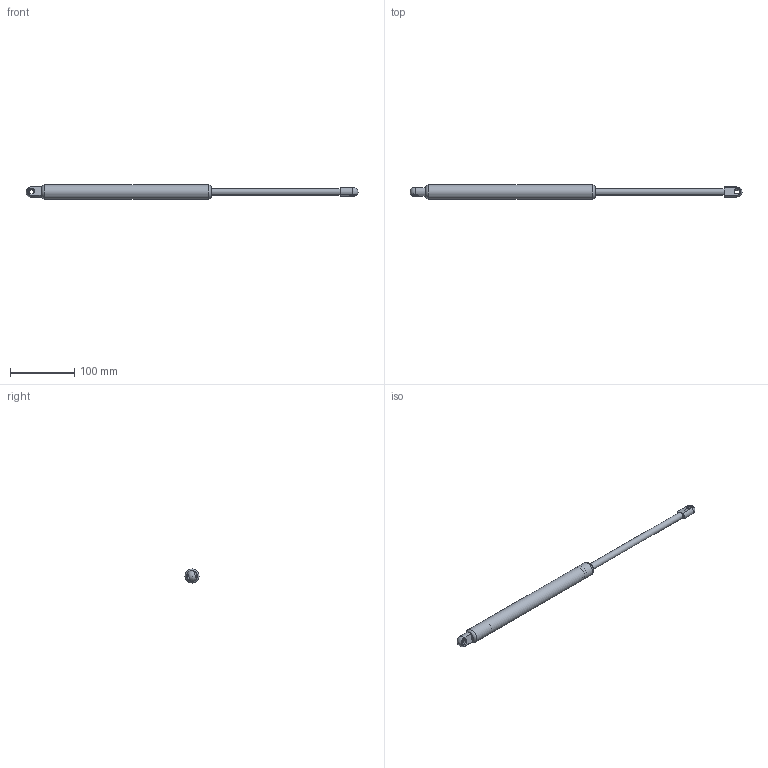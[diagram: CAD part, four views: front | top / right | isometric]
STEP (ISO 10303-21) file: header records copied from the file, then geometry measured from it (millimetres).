
FILE_DESCRIPTION(/* description */ ('STEP AP214'),/* implementation_level */ '2;1');
FILE_NAME(/* name */ 'C:\Users\marco.dallariva\Desktop\Molle a Gas\Bansbach+A1A1-42-200-500--0XX_500N(018).stp',/* time_stamp */ '2022-06-13T16:39:42+02:00',/* author */ ('marco.dallariva'),/* organization */ ('CADENAS'),/* preprocessor_version */ 'ST-DEVELOPER v18.1',/* originating_system */ 'Autodesk Inventor 2021',/* authorisation */ ' ');
FILE_SCHEMA (('AUTOMOTIVE_DESIGN { 1 0 10303 214 3 1 1 }'));
Length unit declared in the file: millimetre
Products named in the file (5): Bansbach+A1A1-42-200-500--0XX_500N(018); _-10_22(2001018A1); _A1-10_22(2001018); _A110AK; _A122AZ
Assembly tree (4 placements, depth 2):
  Bansbach+A1A1-42-200-500--0XX_500N(018)
    _-10_22(2001018A1)
    _A1-10_22(2001018)
    _A110AK
    _A122AZ
Bounding box: 516.5 x 22 x 22 mm (x, y, z)
Volume: 59923.8 mm3; surface area: 44767.1 mm2
Topology: 4 solids, 4 shells, 50 faces, 104 edges, 67 vertices
Faces by surface type: plane 19, cylinder 16, cone 11, torus 2, sphere 2
Full cylindrical faces by diameter (mm): 8 x1, 8.2 x2, 8.376 x1, 8.4 x1, 10 x2, 16.8 x1, 17 x1, 17.8 x1, 19.8 x3, 22 x1
Entity records: 1582 total; most frequent: DIRECTION 277, CARTESIAN_POINT 235, ORIENTED_EDGE 202, AXIS2_PLACEMENT_3D 121, EDGE_CURVE 101, VERTEX_POINT 67, EDGE_LOOP 62, CIRCLE 62
